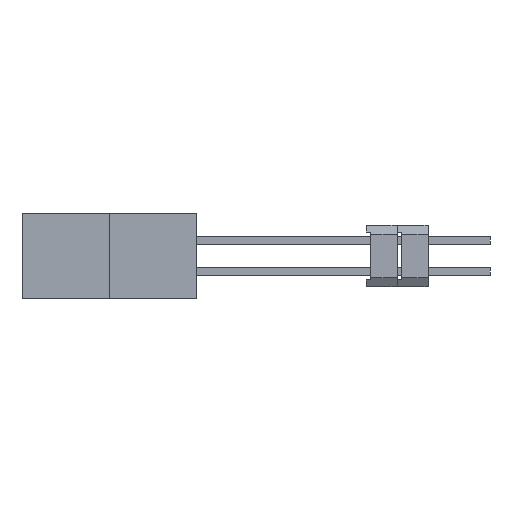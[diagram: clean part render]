
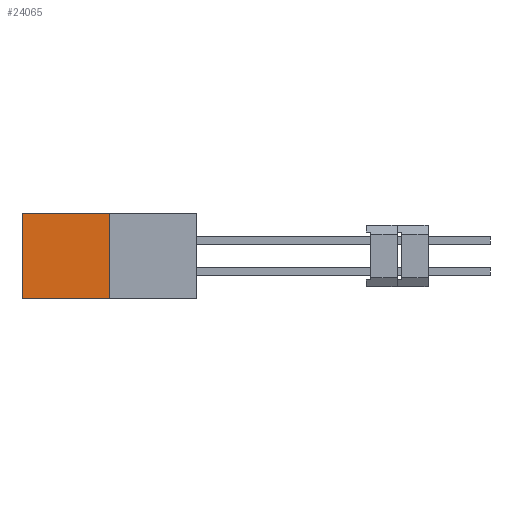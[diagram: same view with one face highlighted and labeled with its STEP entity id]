
A CAD part, left-side view. The second image highlights one B-rep face of the part: STEP entity #24065.
In plain terms, the highlighted planar face has unit normal (-1, 0, 0).
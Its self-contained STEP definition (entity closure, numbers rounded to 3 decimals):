
#1680 = CARTESIAN_POINT ( 'NONE',  ( -13.222, 8.816, -2.75 ) ) ;
#2372 = DIRECTION ( 'NONE',  ( 1., 0., 0. ) ) ;
#4827 = LINE ( 'NONE', #5059, #22386 ) ;
#5059 = CARTESIAN_POINT ( 'NONE',  ( -13.222, 8.816, 2.75 ) ) ;
#5152 = ORIENTED_EDGE ( 'NONE', *, *, #8078, .F. ) ;
#6207 = ORIENTED_EDGE ( 'NONE', *, *, #20537, .T. ) ;
#7174 = VECTOR ( 'NONE', #9411, 1000. ) ;
#7290 = VERTEX_POINT ( 'NONE', #33185 ) ;
#8078 = EDGE_CURVE ( 'NONE', #32710, #7290, #25592, .T. ) ;
#9411 = DIRECTION ( 'NONE',  ( 0., 0., 1. ) ) ;
#12573 = FACE_OUTER_BOUND ( 'NONE', #12604, .T. ) ;
#12604 = EDGE_LOOP ( 'NONE', ( #43712, #6207, #5152, #31982 ) ) ;
#13611 = VERTEX_POINT ( 'NONE', #15310 ) ;
#14864 = VECTOR ( 'NONE', #17688, 1000. ) ;
#15310 = CARTESIAN_POINT ( 'NONE',  ( -13.222, 3.167, -2.75 ) ) ;
#15750 = LINE ( 'NONE', #43410, #7174 ) ;
#17688 = DIRECTION ( 'NONE',  ( 0., -1., 0. ) ) ;
#18585 = CARTESIAN_POINT ( 'NONE',  ( -13.222, 8.816, 2.75 ) ) ;
#19822 = DIRECTION ( 'NONE',  ( 0., 1., 0. ) ) ;
#20537 = EDGE_CURVE ( 'NONE', #13611, #7290, #15750, .T. ) ;
#20747 = EDGE_CURVE ( 'NONE', #32710, #38741, #4827, .T. ) ;
#21749 = CARTESIAN_POINT ( 'NONE',  ( -13.222, 8.816, 2.75 ) ) ;
#22386 = VECTOR ( 'NONE', #39048, 1000. ) ;
#22695 = LINE ( 'NONE', #22931, #37564 ) ;
#22931 = CARTESIAN_POINT ( 'NONE',  ( -13.222, 8.816, -2.75 ) ) ;
#24065 = ADVANCED_FACE ( 'NONE', ( #12573 ), #32733, .F. ) ;
#25592 = LINE ( 'NONE', #18585, #14864 ) ;
#26211 = AXIS2_PLACEMENT_3D ( 'NONE', #26377, #2372, #19822 ) ;
#26377 = CARTESIAN_POINT ( 'NONE',  ( -13.222, 8.816, 2.75 ) ) ;
#29991 = EDGE_CURVE ( 'NONE', #38741, #13611, #22695, .T. ) ;
#31982 = ORIENTED_EDGE ( 'NONE', *, *, #20747, .T. ) ;
#32710 = VERTEX_POINT ( 'NONE', #21749 ) ;
#32733 = PLANE ( 'NONE',  #26211 ) ;
#33185 = CARTESIAN_POINT ( 'NONE',  ( -13.222, 3.167, 2.75 ) ) ;
#37564 = VECTOR ( 'NONE', #41048, 1000. ) ;
#38741 = VERTEX_POINT ( 'NONE', #1680 ) ;
#39048 = DIRECTION ( 'NONE',  ( 0., 0., -1. ) ) ;
#41048 = DIRECTION ( 'NONE',  ( 0., -1., 0. ) ) ;
#43410 = CARTESIAN_POINT ( 'NONE',  ( -13.222, 3.167, 2.75 ) ) ;
#43712 = ORIENTED_EDGE ( 'NONE', *, *, #29991, .T. ) ;
